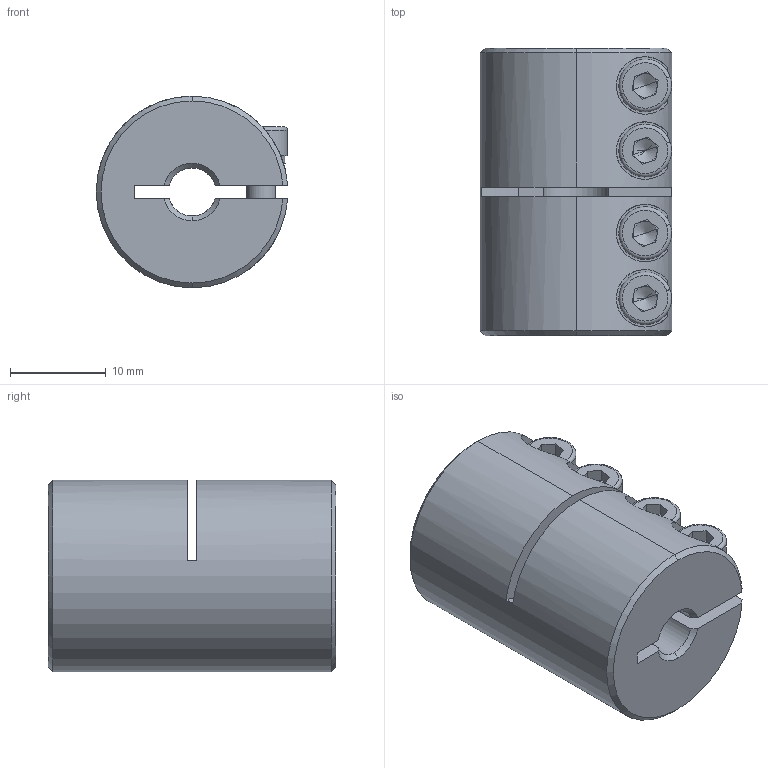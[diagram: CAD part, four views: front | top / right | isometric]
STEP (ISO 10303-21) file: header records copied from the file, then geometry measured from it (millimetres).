
FILE_DESCRIPTION (( 'STEP AP203' ), '1' );
FILE_NAME ('LL-B-D20L30-5-7.STEP', '2021-11-05T03:08:40', ( '' ), ( '' ), 'SwSTEP 2.0', 'SolidWorks 2018', '' );
FILE_SCHEMA (( 'CONFIG_CONTROL_DESIGN' ));
Length unit declared in the file: millimetre
Products named in the file (1): LL-B-D20L30-5-7
Bounding box: 19.98 x 30 x 20 mm (x, y, z)
Volume: 7838 mm3; surface area: 4541.9 mm2
Topology: 1 solids, 1 shells, 178 faces, 459 edges, 287 vertices
Faces by surface type: plane 89, cylinder 61, cone 20, torus 8
Entity records: 5821 total; most frequent: CARTESIAN_POINT 1349, DIRECTION 958, ORIENTED_EDGE 902, EDGE_CURVE 451, AXIS2_PLACEMENT_3D 368, VERTEX_POINT 287, LINE 222, VECTOR 222
